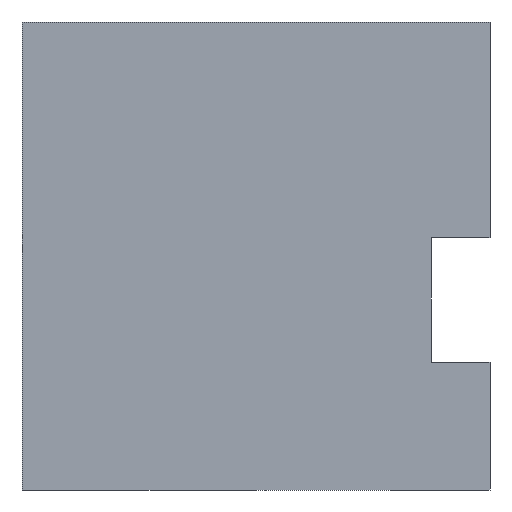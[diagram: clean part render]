
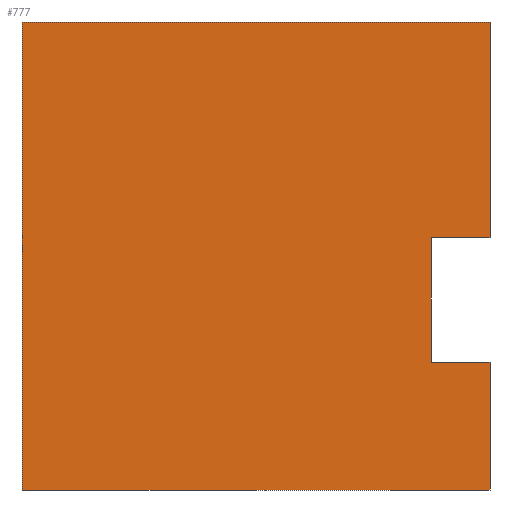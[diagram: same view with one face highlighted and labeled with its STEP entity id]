
A CAD part, left-side view. The second image highlights one B-rep face of the part: STEP entity #777.
In plain terms, the highlighted planar face has unit normal (-1, 0, 0).
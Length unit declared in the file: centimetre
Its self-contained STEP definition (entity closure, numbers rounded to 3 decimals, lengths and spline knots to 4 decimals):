
#16 = CARTESIAN_POINT ( 'NONE',  ( 0., 1000., 0. ) ) ;
#60 = VECTOR ( 'NONE', #552, 100. ) ;
#66 = EDGE_CURVE ( 'NONE', #551, #650, #525, .T. ) ;
#87 = LINE ( 'NONE', #514, #274 ) ;
#100 = DIRECTION ( 'NONE',  ( 0., -1., 0. ) ) ;
#133 = VERTEX_POINT ( 'NONE', #393 ) ;
#140 = EDGE_CURVE ( 'NONE', #133, #877, #365, .T. ) ;
#146 = AXIS2_PLACEMENT_3D ( 'NONE', #756, #219, #433 ) ;
#150 = CARTESIAN_POINT ( 'NONE',  ( 0., 0., 539.121 ) ) ;
#163 = CARTESIAN_POINT ( 'NONE',  ( 0., 0., 1000. ) ) ;
#192 = VECTOR ( 'NONE', #100, 100. ) ;
#200 = FACE_OUTER_BOUND ( 'NONE', #246, .T. ) ;
#219 = DIRECTION ( 'NONE',  ( 1., 0., 0. ) ) ;
#246 = EDGE_LOOP ( 'NONE', ( #781, #282, #366, #339, #673, #473, #737, #371 ) ) ;
#262 = VECTOR ( 'NONE', #767, 100. ) ;
#271 = CARTESIAN_POINT ( 'NONE',  ( 0., 0., 1000. ) ) ;
#274 = VECTOR ( 'NONE', #725, 100. ) ;
#282 = ORIENTED_EDGE ( 'NONE', *, *, #379, .T. ) ;
#321 = CARTESIAN_POINT ( 'NONE',  ( 0., 0., 539.121 ) ) ;
#337 = LINE ( 'NONE', #759, #262 ) ;
#339 = ORIENTED_EDGE ( 'NONE', *, *, #447, .T. ) ;
#360 = LINE ( 'NONE', #712, #570 ) ;
#362 = CARTESIAN_POINT ( 'NONE',  ( 0., 0., 0. ) ) ;
#365 = LINE ( 'NONE', #431, #806 ) ;
#366 = ORIENTED_EDGE ( 'NONE', *, *, #66, .T. ) ;
#371 = ORIENTED_EDGE ( 'NONE', *, *, #616, .T. ) ;
#379 = EDGE_CURVE ( 'NONE', #133, #551, #360, .T. ) ;
#393 = CARTESIAN_POINT ( 'NONE',  ( 0., 0., 272.8054 ) ) ;
#395 = LINE ( 'NONE', #271, #60 ) ;
#431 = CARTESIAN_POINT ( 'NONE',  ( 0., 0., 1000. ) ) ;
#433 = DIRECTION ( 'NONE',  ( 0., 0., -1. ) ) ;
#440 = DIRECTION ( 'NONE',  ( 0., 1., 0. ) ) ;
#447 = EDGE_CURVE ( 'NONE', #650, #569, #791, .T. ) ;
#464 = EDGE_CURVE ( 'NONE', #690, #821, #87, .T. ) ;
#470 = PLANE ( 'NONE',  #146 ) ;
#473 = ORIENTED_EDGE ( 'NONE', *, *, #464, .F. ) ;
#514 = CARTESIAN_POINT ( 'NONE',  ( 0., 1000., 1000. ) ) ;
#523 = CARTESIAN_POINT ( 'NONE',  ( 0., 1000., 0. ) ) ;
#525 = LINE ( 'NONE', #722, #555 ) ;
#528 = CARTESIAN_POINT ( 'NONE',  ( 0., 125.5472, 272.8054 ) ) ;
#551 = VERTEX_POINT ( 'NONE', #528 ) ;
#552 = DIRECTION ( 'NONE',  ( 0., 0., -1. ) ) ;
#555 = VECTOR ( 'NONE', #591, 100. ) ;
#569 = VERTEX_POINT ( 'NONE', #321 ) ;
#570 = VECTOR ( 'NONE', #440, 100. ) ;
#591 = DIRECTION ( 'NONE',  ( 0., 0., 1. ) ) ;
#616 = EDGE_CURVE ( 'NONE', #805, #877, #741, .T. ) ;
#650 = VERTEX_POINT ( 'NONE', #825 ) ;
#673 = ORIENTED_EDGE ( 'NONE', *, *, #739, .F. ) ;
#678 = DIRECTION ( 'NONE',  ( 0., 0., -1. ) ) ;
#690 = VERTEX_POINT ( 'NONE', #699 ) ;
#696 = EDGE_CURVE ( 'NONE', #690, #805, #337, .T. ) ;
#699 = CARTESIAN_POINT ( 'NONE',  ( 0., 1000., 1000. ) ) ;
#702 = VECTOR ( 'NONE', #799, 100. ) ;
#712 = CARTESIAN_POINT ( 'NONE',  ( 0., 0., 272.8054 ) ) ;
#722 = CARTESIAN_POINT ( 'NONE',  ( 0., 125.5472, 272.8054 ) ) ;
#725 = DIRECTION ( 'NONE',  ( 0., -1., 0. ) ) ;
#737 = ORIENTED_EDGE ( 'NONE', *, *, #696, .T. ) ;
#739 = EDGE_CURVE ( 'NONE', #821, #569, #395, .T. ) ;
#741 = LINE ( 'NONE', #523, #702 ) ;
#756 = CARTESIAN_POINT ( 'NONE',  ( 0., 1000., 1000. ) ) ;
#759 = CARTESIAN_POINT ( 'NONE',  ( 0., 1000., 1000. ) ) ;
#767 = DIRECTION ( 'NONE',  ( 0., 0., -1. ) ) ;
#777 = ADVANCED_FACE ( 'NONE', ( #200 ), #470, .F. ) ;
#781 = ORIENTED_EDGE ( 'NONE', *, *, #140, .F. ) ;
#791 = LINE ( 'NONE', #150, #192 ) ;
#799 = DIRECTION ( 'NONE',  ( 0., -1., 0. ) ) ;
#805 = VERTEX_POINT ( 'NONE', #16 ) ;
#806 = VECTOR ( 'NONE', #678, 100. ) ;
#821 = VERTEX_POINT ( 'NONE', #163 ) ;
#825 = CARTESIAN_POINT ( 'NONE',  ( 0., 125.5472, 539.121 ) ) ;
#877 = VERTEX_POINT ( 'NONE', #362 ) ;
